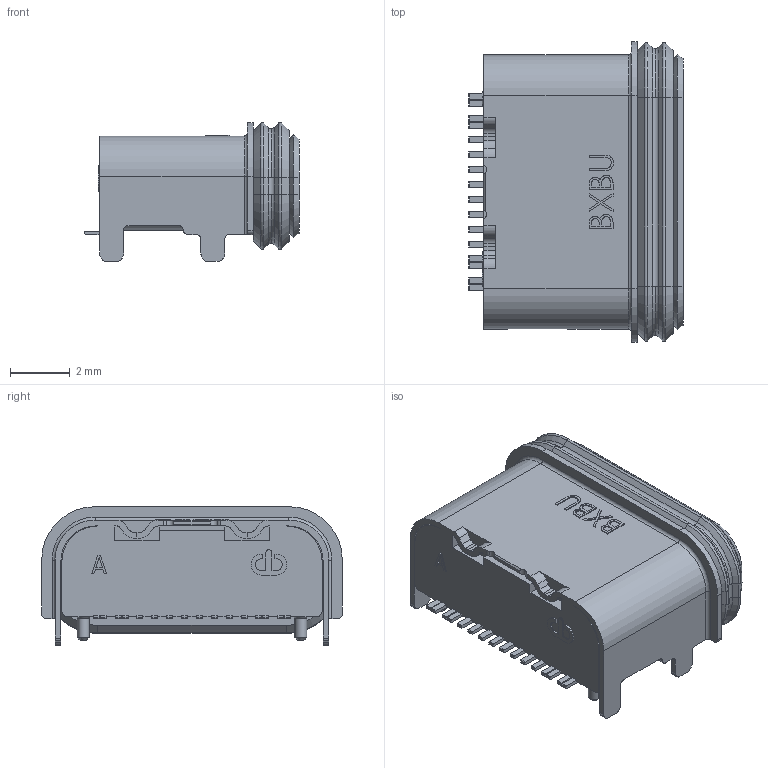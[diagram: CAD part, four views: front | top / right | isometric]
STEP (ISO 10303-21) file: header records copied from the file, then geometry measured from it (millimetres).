
FILE_DESCRIPTION (( 'STEP AP214' ), '1' );
FILE_NAME ('U5284-16PN6.7LF.STEP', '2026-07-30T01:35:27', ( '' ), ( '' ), 'SwSTEP 2.0', 'SolidWorks 2024', '' );
FILE_SCHEMA (( 'AUTOMOTIVE_DESIGN' ));
Length unit declared in the file: millimetre
Products named in the file (4): CASE_USB_003_ASM_3_ASM; U5284-16PN6.7LF; PUB050-1611-C26-1H0001_2; U5284-16PN6.7LF(2)
Assembly tree (3 placements, depth 4):
  U5284-16PN6.7LF
    U5284-16PN6.7LF(2)
      CASE_USB_003_ASM_3_ASM
        PUB050-1611-C26-1H0001_2
Bounding box: 7.2 x 10.1 x 4.66 mm (x, y, z)
Surface area: 644.7 mm2 (no closed solid volume)
Topology: 0 solids, 22 shells, 1693 faces, 4880 edges, 3165 vertices
Faces by surface type: plane 1206, cylinder 367, cone 71, bspline 25, torus 24
Entity records: 57691 total; most frequent: CARTESIAN_POINT 14620, ORIENTED_EDGE 9760, DIRECTION 7901, EDGE_CURVE 4880, VERTEX_POINT 3165, VECTOR 3109, LINE 3109, AXIS2_PLACEMENT_3D 2396
